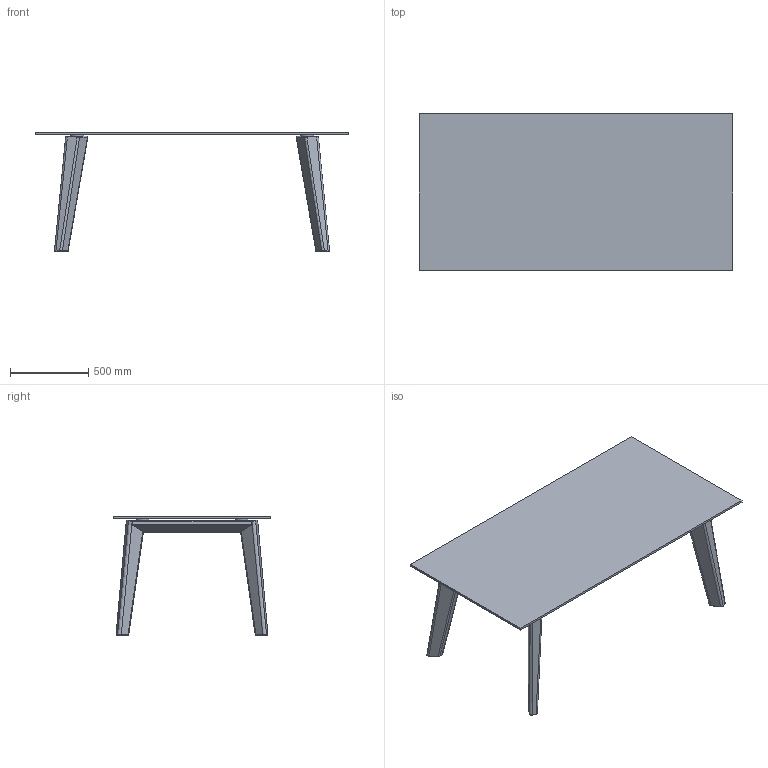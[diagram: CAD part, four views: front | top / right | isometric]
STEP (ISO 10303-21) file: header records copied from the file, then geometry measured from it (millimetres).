
FILE_DESCRIPTION(/* description */ (''),/* implementation_level */ '2;1');
FILE_NAME(/* name */ 'MKBYTP~X',/* time_stamp */ '2022-02-02T11:13:39+01:00',/* author */ (''),/* organization */ (''),/* preprocessor_version */ 'ST-DEVELOPER v16.5',/* originating_system */ '',/* authorisation */ '');
FILE_SCHEMA (('AUTOMOTIVE_DESIGN'));
Length unit declared in the file: millimetre
Products named in the file (1): Document
Bounding box: 2000 x 1000 x 760 mm (x, y, z)
Volume: 59663509.9 mm3; surface area: 5692271.1 mm2
Topology: 11 solids, 11 shells, 194 faces, 426 edges, 254 vertices
Faces by surface type: bspline 162, plane 32
Entity records: 14909 total; most frequent: CARTESIAN_POINT 12433, ORIENTED_EDGE 848, EDGE_CURVE 424, VERTEX_POINT 252, ADVANCED_FACE 194, FACE_OUTER_BOUND 194, EDGE_LOOP 194, B_SPLINE_CURVE_WITH_KNOTS 90
